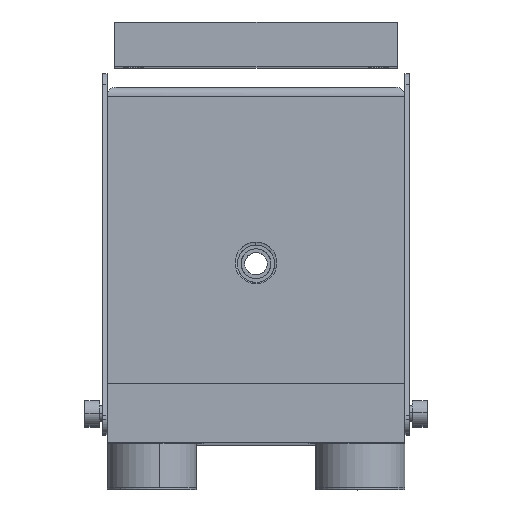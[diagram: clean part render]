
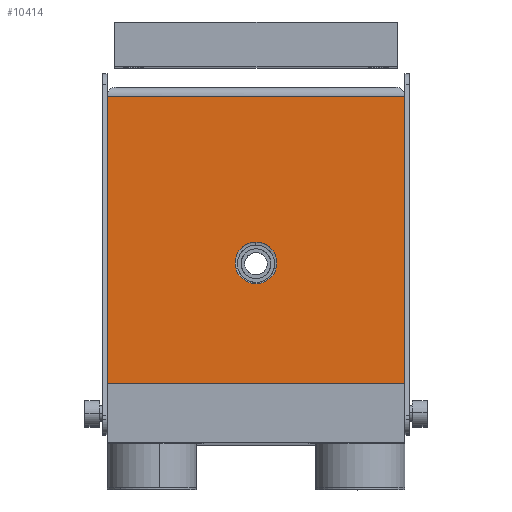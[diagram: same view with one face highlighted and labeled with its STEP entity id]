
A CAD part, top view. The second image highlights one B-rep face of the part: STEP entity #10414.
In plain terms, the highlighted planar face has unit normal (0, 0, 1).
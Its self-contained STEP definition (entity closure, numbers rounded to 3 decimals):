
#406 = VERTEX_POINT ( 'NONE', #11437 ) ;
#1051 = DIRECTION ( 'NONE',  ( 1., 0., 0. ) ) ;
#1256 = CARTESIAN_POINT ( 'NONE',  ( 90., 20., -245. ) ) ;
#1389 = DIRECTION ( 'NONE',  ( -1., 0., 0. ) ) ;
#1403 = DIRECTION ( 'NONE',  ( 0., 0., -1. ) ) ;
#1443 = CARTESIAN_POINT ( 'NONE',  ( 90., 120., -245. ) ) ;
#1452 = PLANE ( 'NONE',  #13663 ) ;
#1579 = VECTOR ( 'NONE', #8942, 1000. ) ;
#1921 = EDGE_LOOP ( 'NONE', ( #12831, #6845 ) ) ;
#2565 = CARTESIAN_POINT ( 'NONE',  ( -10., 20., -245. ) ) ;
#2941 = CARTESIAN_POINT ( 'NONE',  ( 90., 120., -245. ) ) ;
#3168 = LINE ( 'NONE', #2941, #3215 ) ;
#3215 = VECTOR ( 'NONE', #9732, 1000. ) ;
#3342 = EDGE_LOOP ( 'NONE', ( #11811, #11776, #7884, #8977 ) ) ;
#4107 = EDGE_CURVE ( 'NONE', #10359, #8753, #11986, .T. ) ;
#4301 = CIRCLE ( 'NONE', #6520, 7. ) ;
#4802 = AXIS2_PLACEMENT_3D ( 'NONE', #9813, #9785, #9770 ) ;
#4930 = DIRECTION ( 'NONE',  ( -1., 0., 0. ) ) ;
#4949 = DIRECTION ( 'NONE',  ( 0., 0., -1. ) ) ;
#4968 = CARTESIAN_POINT ( 'NONE',  ( 40., 61., -245. ) ) ;
#5449 = CARTESIAN_POINT ( 'NONE',  ( 90., 20., -245. ) ) ;
#5644 = EDGE_CURVE ( 'NONE', #14803, #8753, #3168, .T. ) ;
#5674 = FACE_OUTER_BOUND ( 'NONE', #3342, .T. ) ;
#6056 = VERTEX_POINT ( 'NONE', #12745 ) ;
#6383 = CIRCLE ( 'NONE', #4802, 7. ) ;
#6520 = AXIS2_PLACEMENT_3D ( 'NONE', #4968, #4949, #4930 ) ;
#6845 = ORIENTED_EDGE ( 'NONE', *, *, #7597, .T. ) ;
#7112 = LINE ( 'NONE', #13117, #11183 ) ;
#7298 = EDGE_CURVE ( 'NONE', #14803, #406, #12559, .T. ) ;
#7597 = EDGE_CURVE ( 'NONE', #13159, #6056, #4301, .T. ) ;
#7884 = ORIENTED_EDGE ( 'NONE', *, *, #10782, .T. ) ;
#7961 = CARTESIAN_POINT ( 'NONE',  ( 47., 61., -245. ) ) ;
#8111 = VECTOR ( 'NONE', #1051, 1000. ) ;
#8753 = VERTEX_POINT ( 'NONE', #5449 ) ;
#8942 = DIRECTION ( 'NONE',  ( -1., 0., 0. ) ) ;
#8977 = ORIENTED_EDGE ( 'NONE', *, *, #4107, .T. ) ;
#9072 = CARTESIAN_POINT ( 'NONE',  ( 90., 117., -245. ) ) ;
#9468 = CARTESIAN_POINT ( 'NONE',  ( -10., 117., -245. ) ) ;
#9732 = DIRECTION ( 'NONE',  ( 0., -1., 0. ) ) ;
#9770 = DIRECTION ( 'NONE',  ( -1., 0., 0. ) ) ;
#9785 = DIRECTION ( 'NONE',  ( 0., 0., -1. ) ) ;
#9793 = EDGE_CURVE ( 'NONE', #6056, #13159, #6383, .T. ) ;
#9813 = CARTESIAN_POINT ( 'NONE',  ( 40., 61., -245. ) ) ;
#10359 = VERTEX_POINT ( 'NONE', #2565 ) ;
#10414 = ADVANCED_FACE ( 'NONE', ( #13557, #5674 ), #1452, .F. ) ;
#10782 = EDGE_CURVE ( 'NONE', #406, #10359, #7112, .T. ) ;
#11183 = VECTOR ( 'NONE', #12979, 1000. ) ;
#11437 = CARTESIAN_POINT ( 'NONE',  ( -10., 117., -245. ) ) ;
#11776 = ORIENTED_EDGE ( 'NONE', *, *, #7298, .T. ) ;
#11811 = ORIENTED_EDGE ( 'NONE', *, *, #5644, .F. ) ;
#11986 = LINE ( 'NONE', #1256, #8111 ) ;
#12559 = LINE ( 'NONE', #9468, #1579 ) ;
#12745 = CARTESIAN_POINT ( 'NONE',  ( 33., 61., -245. ) ) ;
#12831 = ORIENTED_EDGE ( 'NONE', *, *, #9793, .T. ) ;
#12979 = DIRECTION ( 'NONE',  ( 0., -1., 0. ) ) ;
#13117 = CARTESIAN_POINT ( 'NONE',  ( -10., 120., -245. ) ) ;
#13159 = VERTEX_POINT ( 'NONE', #7961 ) ;
#13557 = FACE_BOUND ( 'NONE', #1921, .T. ) ;
#13663 = AXIS2_PLACEMENT_3D ( 'NONE', #1443, #1403, #1389 ) ;
#14803 = VERTEX_POINT ( 'NONE', #9072 ) ;
